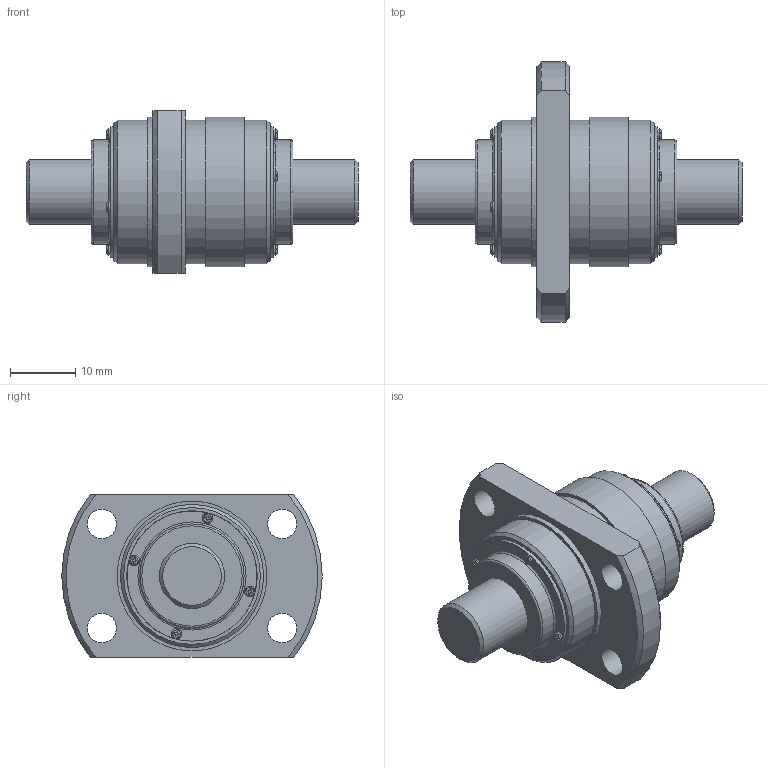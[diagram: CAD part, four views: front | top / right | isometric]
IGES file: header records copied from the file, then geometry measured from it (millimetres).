
Start section: Data from Parasolid IGES Translator 26.0.171, Copyright(c) 2006 Siemens PLM Software. All Rights Reserved.
Global section: file name: BLK1010-3.2ZZ+51LC7T_000.igs; native system: By Siemens PLM Incorporated; preprocessor: XPlus GENERIC/IGES 26.0.171; author: Noname; organization: Noname; date: 20250611.062354; units: millimetre
Bounding box: 51 x 40 x 25 mm (x, y, z)
Surface area: 6844.5 mm2 (no closed solid volume)
Topology: 0 solids, 0 shells, 236 faces, 1298 edges, 1239 vertices
Faces by surface type: extrusion 151, revolution 85
